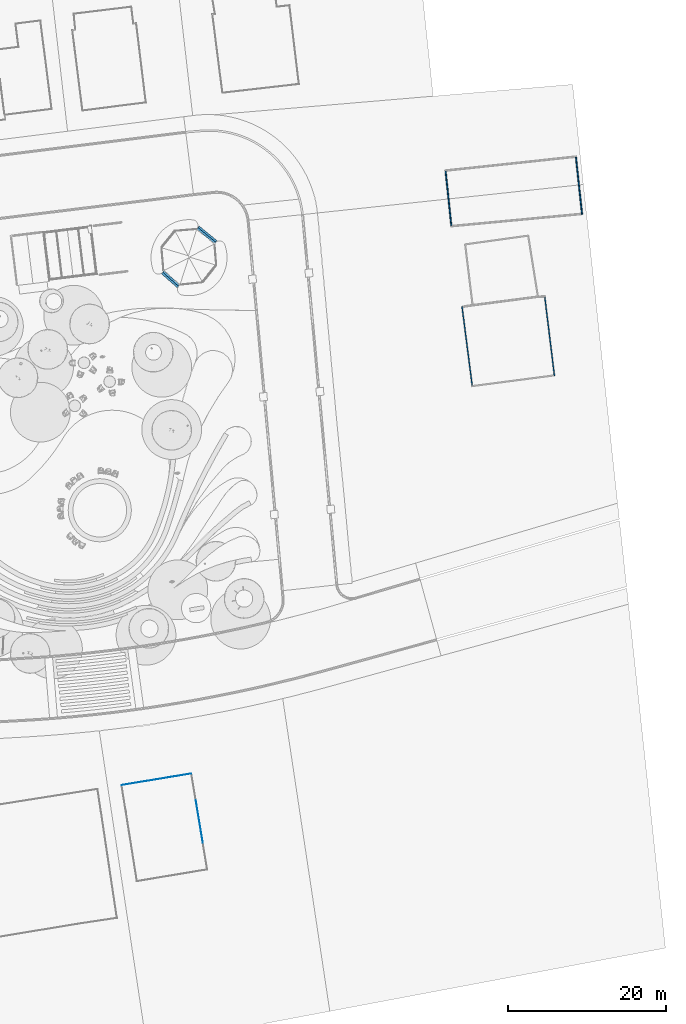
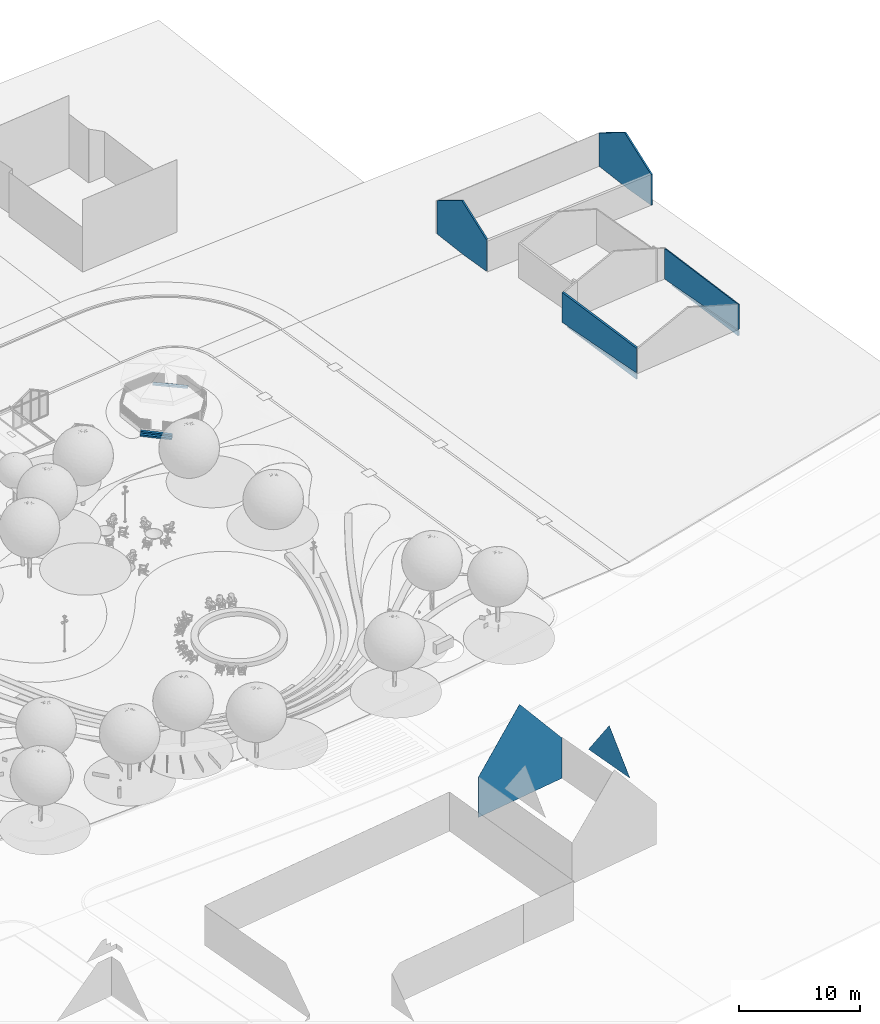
# One storey, part 50 of 75: 6 walls, 2 stair flights, 2 elements without a shape of their own.
"""IFC2X3 building model written with IfcOpenShell, lengths in metres."""

import ifcopenshell
import ifcopenshell.guid

model = None  # the IFC model being written
_history = None  # IfcOwnerHistory: only IFC2X3 demands one
_inside = {}  # id of a spatial element -> (the spatial element, [elements in it])
_under = {}  # id of a project, library or spatial element -> (it, [spatial elements below it])
_declared = {}  # id of a project -> (the project, [libraries it declares])
_typed = {}  # id of a type object -> (the type object, [elements of that type])
_made_of = {}  # id of a material, layer set ... -> (it, [elements and type objects made of it])


def new_model(schema):
    """Start an empty IFC model of exactly this schema.

    Asked for "IFC4X3", IfcOpenShell would pick the latest addendum, in which some entities
    have other attributes; the version numbers below select the first issue.
    IFC2X3 requires an IfcOwnerHistory on every rooted entity: one is made here for all.
    """
    global model, _history
    if schema == "IFC4X3":
        model = ifcopenshell.file(schema_version=(4, 3, 0, 0))
    else:
        model = ifcopenshell.file(schema=schema)
    _inside.clear()
    _under.clear()
    _declared.clear()
    _typed.clear()
    _made_of.clear()
    _history = None
    if model.schema == "IFC2X3":
        org = make("IfcOrganization", Name="unknown")
        user = make(
            "IfcPersonAndOrganization",
            ThePerson=make("IfcPerson", FamilyName="unknown"),
            TheOrganization=org,
        )
        app = make(
            "IfcApplication",
            ApplicationDeveloper=org,
            Version="unknown",
            ApplicationFullName="unknown",
            ApplicationIdentifier="unknown",
        )
        _history = make(
            "IfcOwnerHistory",
            OwningUser=user,
            OwningApplication=app,
            ChangeAction="ADDED",
            CreationDate=0,
        )
    return model


def make(cls, **values):
    """One entity of the class cls with the attributes given. An attribute that is None is left unset."""
    return model.create_entity(
        cls, **{name: value for name, value in values.items() if value is not None}
    )


def entity(cls, *values):
    """Any entity or typed value of the class cls, its attributes in the order of the schema. None: left unset."""
    e = model.create_entity(cls)
    for i, value in enumerate(values):
        if value is not None:
            e[i] = value
    return e


def rooted(cls, **values):
    """An entity with a GlobalId (a new one), such as an element, a storey or a relation."""
    return make(cls, GlobalId=ifcopenshell.guid.new(), OwnerHistory=_history, **values)


def si_unit(unit_type, name, prefix=None):
    """IfcSIUnit, for example si_unit("LENGTHUNIT", "METRE", prefix="MILLI")."""
    return make("IfcSIUnit", UnitType=unit_type, Prefix=prefix, Name=name)


def converted_unit(unit_type, name, factor, base, dimensions=None, offset=None):
    """IfcConversionBasedUnit, such as the inch: factor (a typed value) times the base unit."""
    return make(
        "IfcConversionBasedUnit"
        if offset is None
        else "IfcConversionBasedUnitWithOffset",
        ConversionOffset=offset,
        Dimensions=None
        if dimensions is None
        else entity("IfcDimensionalExponents", *dimensions),
        UnitType=unit_type,
        Name=name,
        ConversionFactor=make(
            "IfcMeasureWithUnit", ValueComponent=factor, UnitComponent=base
        ),
    )


def derived_unit(unit_type, elements):
    """IfcDerivedUnit: a product of units, each with its exponent."""
    return make(
        "IfcDerivedUnit",
        Elements=[
            make("IfcDerivedUnitElement", Unit=unit, Exponent=power)
            for unit, power in elements
        ],
        UnitType=unit_type,
    )


def assignment(units):
    """IfcUnitAssignment: the units of a project."""
    return None if units is None else make("IfcUnitAssignment", Units=units)


def point(xyz):
    """IfcCartesianPoint."""
    return None if xyz is None else make("IfcCartesianPoint", Coordinates=xyz)


def direction(xyz):
    """IfcDirection."""
    return None if xyz is None else make("IfcDirection", DirectionRatios=xyz)


def frame(location, z_axis=None, x_axis=None):
    """IfcAxis2Placement3D, a coordinate frame: its origin and axes. An axis left out is left unset."""
    return make(
        "IfcAxis2Placement3D",
        Location=point(location),
        Axis=direction(z_axis),
        RefDirection=direction(x_axis),
    )


def origin():
    """The frame at (0, 0, 0) with its axes left unset."""
    return frame((0.0, 0.0, 0.0))


def place(relative_to, where):
    """IfcLocalPlacement: puts the frame where relative to a parent placement (None: the world)."""
    return make(
        "IfcLocalPlacement", PlacementRelTo=relative_to, RelativePlacement=where
    )


def context(
    kind, dimensions, precision=None, world=None, true_north=None, identifier=None
):
    """IfcGeometricRepresentationContext, for example the 3D "Model" context."""
    return make(
        "IfcGeometricRepresentationContext",
        ContextIdentifier=identifier,
        ContextType=kind,
        CoordinateSpaceDimension=dimensions,
        Precision=precision,
        WorldCoordinateSystem=world,
        TrueNorth=true_north,
    )


def subcontext(parent, identifier, kind, view, scale=None):
    """IfcGeometricRepresentationSubContext, for example "Body" below "Model"."""
    return make(
        "IfcGeometricRepresentationSubContext",
        ContextIdentifier=identifier,
        ContextType=kind,
        ParentContext=parent,
        TargetScale=scale,
        TargetView=view,
    )


def project(units=None, contexts=None):
    """IfcProject with its units and contexts."""
    return rooted(
        "IfcProject",
        Name="project",
        RepresentationContexts=contexts,
        UnitsInContext=assignment(units),
    )


def spatial(cls, under=None, at=None, **own):
    """A site, building, storey or space (cls), placed at a placement, below another one or the project."""
    s = rooted(cls, ObjectPlacement=at, **own)
    if under is not None:
        _under.setdefault(under.id(), (under, []))[1].append(s)
    return s


def faces_of(points, faces, orient=None, outer=None):
    """IfcFace entities. A face is a list of loops; a loop is a list of indices into points, from 0.

    orient and outer hold one flag for each loop. By default every Orientation is true, the
    first loop of a face is its IfcFaceOuterBound and the others are IfcFaceBound.
    """
    made = []
    for i, loops in enumerate(faces):
        bounds = []
        for j, loop in enumerate(loops):
            is_outer = j == 0 if outer is None else outer[i][j]
            bounds.append(
                make(
                    "IfcFaceOuterBound" if is_outer else "IfcFaceBound",
                    Bound=make("IfcPolyLoop", Polygon=[points[k] for k in loop]),
                    Orientation=True if orient is None else orient[i][j],
                )
            )
        made.append(make("IfcFace", Bounds=bounds))
    return made


def faceted_brep(points, faces, orient=None, outer=None, voids=None):
    """IfcFacetedBrep: a solid bounded by flat faces; with voids (closed shells), ...WithVoids."""
    shared = [point(p) for p in points]
    hull = make("IfcClosedShell", CfsFaces=faces_of(shared, faces, orient, outer))
    if voids is None:
        return make("IfcFacetedBrep", Outer=hull)
    return make(
        "IfcFacetedBrepWithVoids",
        Outer=hull,
        Voids=[
            make(cls, CfsFaces=faces_of(shared, fs, o, b)) for cls, fs, o, b in voids
        ],
    )


def shape(context_of_items, identifier, shape_type, items):
    """IfcShapeRepresentation: the items that make up one representation, for example the "Body"."""
    return make(
        "IfcShapeRepresentation",
        ContextOfItems=context_of_items,
        RepresentationIdentifier=identifier,
        RepresentationType=shape_type,
        Items=items,
    )


def material(Name=None, Category=None):
    """IfcMaterial."""
    return make("IfcMaterial", Name=Name, Category=Category)


def layer(
    of_material, thickness, ventilated=None, Name=None, Category=None, Priority=None
):
    """IfcMaterialLayer: one layer of a wall or slab, of a material (None: an air gap)."""
    return make(
        "IfcMaterialLayer",
        Material=of_material,
        LayerThickness=thickness,
        IsVentilated=ventilated,
        Name=Name,
        Category=Category,
        Priority=Priority,
    )


def layer_set(layers, Name=None):
    """IfcMaterialLayerSet."""
    return make("IfcMaterialLayerSet", MaterialLayers=layers, LayerSetName=Name)


def made_of(thing, what):
    """Note that an element or type object is made of a material, layer set ...; save() writes the relation."""
    if what is not None:
        _made_of.setdefault(what.id(), (what, []))[1].append(thing)
    return thing


def type_object(cls, material=None, **own):
    """A type object (cls), such as IfcWallType, which elements share."""
    return made_of(rooted(cls, **own), material)


def element(
    cls,
    number,
    at=None,
    inside=None,
    cuts=None,
    type_object=None,
    material=None,
    context=None,
    identifier="Body",
    shape_type=None,
    held_by="IfcProductDefinitionShape",
    body=None,
    shapes=None,
    **own,
):
    """One element of the class cls, such as IfcWall. Its Tag is "e" and its number.

    at: its placement. inside: the storey or other place that contains it. cuts: it is an
    opening in that element (IfcRelVoidsElement). A single representation is given by context,
    identifier, shape_type and body (its items); several are given by shapes. held_by: the class
    of the entity that holds the representations. save() writes the other relations.
    """
    e = rooted(cls, Tag="e%d" % number, ObjectPlacement=at, **own)
    if body is not None:
        shapes = [shape(context, identifier, shape_type, body)]
    if shapes is not None:
        e.Representation = make(held_by, Representations=shapes)
    if inside is not None:
        _inside.setdefault(inside.id(), (inside, []))[1].append(e)
    if cuts is not None:
        rooted(
            "IfcRelVoidsElement", RelatingBuildingElement=cuts, RelatedOpeningElement=e
        )
    if type_object is not None:
        _typed.setdefault(type_object.id(), (type_object, []))[1].append(e)
    return made_of(e, material)


def aggregate(whole, parts):
    """IfcRelAggregates: a whole, such as a stair, and the parts it consists of."""
    return rooted("IfcRelAggregates", RelatingObject=whole, RelatedObjects=parts)


def save(model, path):
    """Write the relations noted so far, then the file.

    IfcRelAggregates (storeys below a building ...), IfcRelContainedInSpatialStructure (elements
    in a storey), IfcRelDefinesByType, IfcRelAssociatesMaterial and IfcRelDeclares: one each for
    every whole, place, type object, material and project.
    """
    for whole, parts in _under.values():
        aggregate(whole, parts)
    for where, things in _inside.values():
        rooted(
            "IfcRelContainedInSpatialStructure",
            RelatedElements=things,
            RelatingStructure=where,
        )
    for kind, things in _typed.values():
        rooted("IfcRelDefinesByType", RelatedObjects=things, RelatingType=kind)
    for what, things in _made_of.values():
        rooted("IfcRelAssociatesMaterial", RelatedObjects=things, RelatingMaterial=what)
    for by, libraries in _declared.values():
        rooted("IfcRelDeclares", RelatingContext=by, RelatedDefinitions=libraries)
    model.write(path)


model = new_model("IFC2X3")

# Units and contexts
model_context = context("Model", 3, precision=1e-05, world=origin(), true_north=direction((6.123031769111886e-17, 1.0)))
body_context = subcontext(model_context, "Body", "Model", "MODEL_VIEW")
ifc_project = project(units=[si_unit("LENGTHUNIT", "METRE"), si_unit("AREAUNIT", "SQUARE_METRE"), si_unit("VOLUMEUNIT", "CUBIC_METRE"), converted_unit("PLANEANGLEUNIT", "DEGREE", entity("IfcRatioMeasure", 0.017453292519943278), si_unit("PLANEANGLEUNIT", "RADIAN"), dimensions=[0, 0, 0, 0, 0, 0, 0]), si_unit("MASSUNIT", "GRAM", prefix="KILO"), derived_unit("MASSDENSITYUNIT", [(si_unit("MASSUNIT", "GRAM", prefix="KILO"), 1), (si_unit("LENGTHUNIT", "METRE"), -3)]), derived_unit("IONCONCENTRATIONUNIT", [(si_unit("MASSUNIT", "GRAM", prefix="KILO"), 1), (si_unit("LENGTHUNIT", "METRE"), -3)]), derived_unit("MOMENTOFINERTIAUNIT", [(si_unit("LENGTHUNIT", "METRE"), 4)]), si_unit("TIMEUNIT", "SECOND"), si_unit("FREQUENCYUNIT", "HERTZ"), si_unit("THERMODYNAMICTEMPERATUREUNIT", "DEGREE_CELSIUS"), derived_unit("THERMALTRANSMITTANCEUNIT", [(si_unit("MASSUNIT", "GRAM", prefix="KILO"), 1), (si_unit("THERMODYNAMICTEMPERATUREUNIT", "KELVIN"), -1), (si_unit("TIMEUNIT", "SECOND"), -3)]), derived_unit("THERMALCONDUCTANCEUNIT", [(si_unit("MASSUNIT", "GRAM", prefix="KILO"), 1), (si_unit("THERMODYNAMICTEMPERATUREUNIT", "KELVIN"), -1), (si_unit("TIMEUNIT", "SECOND"), -3), (si_unit("LENGTHUNIT", "METRE"), 1)]), derived_unit("VOLUMETRICFLOWRATEUNIT", [(si_unit("LENGTHUNIT", "METRE"), 3), (si_unit("TIMEUNIT", "SECOND"), -1)]), derived_unit("MASSFLOWRATEUNIT", [(si_unit("MASSUNIT", "GRAM", prefix="KILO"), 1), (si_unit("TIMEUNIT", "SECOND"), -1)]), derived_unit("ROTATIONALFREQUENCYUNIT", [(si_unit("TIMEUNIT", "SECOND"), -1)]), si_unit("ELECTRICCURRENTUNIT", "AMPERE"), si_unit("ELECTRICVOLTAGEUNIT", "VOLT"), si_unit("POWERUNIT", "WATT"), si_unit("FORCEUNIT", "NEWTON", prefix="KILO"), si_unit("ILLUMINANCEUNIT", "LUX"), si_unit("LUMINOUSFLUXUNIT", "LUMEN"), si_unit("LUMINOUSINTENSITYUNIT", "CANDELA"), derived_unit("USERDEFINED", [(si_unit("MASSUNIT", "GRAM", prefix="KILO"), -1), (si_unit("LENGTHUNIT", "METRE"), -2), (si_unit("TIMEUNIT", "SECOND"), 3), (si_unit("LUMINOUSFLUXUNIT", "LUMEN"), 1)]), derived_unit("USERDEFINED", [(si_unit("MASSUNIT", "GRAM", prefix="KILO"), 1), (si_unit("TIMEUNIT", "SECOND"), -3), (si_unit("LENGTHUNIT", "METRE"), 3), (si_unit("ELECTRICCURRENTUNIT", "AMPERE"), -2)]), derived_unit("SOUNDPOWERUNIT", [(si_unit("MASSUNIT", "GRAM", prefix="KILO"), 1), (si_unit("TIMEUNIT", "SECOND"), -3), (si_unit("LENGTHUNIT", "METRE"), 2)]), derived_unit("SOUNDPRESSUREUNIT", [(si_unit("MASSUNIT", "GRAM", prefix="KILO"), 1), (si_unit("LENGTHUNIT", "METRE"), -1), (si_unit("TIMEUNIT", "SECOND"), -2)]), derived_unit("LINEARVELOCITYUNIT", [(si_unit("LENGTHUNIT", "METRE"), 1), (si_unit("TIMEUNIT", "SECOND"), -1)]), si_unit("PRESSUREUNIT", "PASCAL"), derived_unit("USERDEFINED", [(si_unit("MASSUNIT", "GRAM", prefix="KILO"), 1), (si_unit("LENGTHUNIT", "METRE"), -2), (si_unit("TIMEUNIT", "SECOND"), -2)]), derived_unit("LINEARFORCEUNIT", [(si_unit("MASSUNIT", "GRAM", prefix="KILO"), 1), (si_unit("TIMEUNIT", "SECOND"), -2)]), derived_unit("PLANARFORCEUNIT", [(si_unit("MASSUNIT", "GRAM", prefix="KILO"), 1), (si_unit("LENGTHUNIT", "METRE"), -1), (si_unit("TIMEUNIT", "SECOND"), -2)]), derived_unit("SPECIFICHEATCAPACITYUNIT", [(si_unit("THERMODYNAMICTEMPERATUREUNIT", "KELVIN"), -1), (si_unit("LENGTHUNIT", "METRE"), 2), (si_unit("TIMEUNIT", "SECOND"), -2)]), derived_unit("HEATINGVALUEUNIT", [(si_unit("LENGTHUNIT", "METRE"), 2), (si_unit("TIMEUNIT", "SECOND"), -2)]), derived_unit("VAPORPERMEABILITYUNIT", [(si_unit("LENGTHUNIT", "METRE"), -1), (si_unit("TIMEUNIT", "SECOND"), 1)]), derived_unit("DYNAMICVISCOSITYUNIT", [(si_unit("MASSUNIT", "GRAM", prefix="KILO"), 1), (si_unit("TIMEUNIT", "SECOND"), -1), (si_unit("LENGTHUNIT", "METRE"), -1)]), derived_unit("THERMALEXPANSIONCOEFFICIENTUNIT", [(si_unit("THERMODYNAMICTEMPERATUREUNIT", "KELVIN"), -1)]), derived_unit("MODULUSOFELASTICITYUNIT", [(si_unit("MASSUNIT", "GRAM", prefix="KILO"), 1), (si_unit("LENGTHUNIT", "METRE"), -1), (si_unit("TIMEUNIT", "SECOND"), -2)]), derived_unit("ISOTHERMALMOISTURECAPACITYUNIT", [(si_unit("LENGTHUNIT", "METRE"), 3), (si_unit("MASSUNIT", "GRAM", prefix="KILO"), -1)]), derived_unit("MOISTUREDIFFUSIVITYUNIT", [(si_unit("TIMEUNIT", "SECOND"), -1), (si_unit("LENGTHUNIT", "METRE"), 2)])], contexts=[model_context])

# Site, building, storey
site_placement = place(None, origin())
site = spatial("IfcSite", under=ifc_project, at=site_placement, Name="Default", CompositionType="ELEMENT")
building_placement = place(site_placement, origin())
building = spatial("IfcBuilding", under=site, at=building_placement, Name="Projeto", CompositionType="ELEMENT")
storey_placement = place(building_placement, origin())
storey = spatial("IfcBuildingStorey", under=building, at=storey_placement, Name="Nível 1", CompositionType="ELEMENT", Elevation=0.0)

# Walls
ifc_material_1 = material(Name="Metal")
ifc_layer_1 = layer(ifc_material_1, 0.01)
ifc_layer_set_1 = layer_set([ifc_layer_1], Name="Parede básica:JA_Aluminio")
wall_type_1 = type_object("IfcWallType", Name="Parede básica:JA_Aluminio", PredefinedType="STANDARD", material=ifc_layer_set_1)
wall_1_placement = place(storey_placement, frame((20.369379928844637, -33.950649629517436, -0.1), z_axis=(0.0, 0.0, 1.0), x_axis=(-0.9867873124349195, -0.16202098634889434, 0.0)))
element("IfcWall", 1, at=wall_1_placement, inside=storey, type_object=wall_type_1, Name="Parede básica:JA_Aluminio", ObjectType="Parede básica:JA_Aluminio", context=body_context, shape_type="Brep", body=[
    faceted_brep([(1.6000740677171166e-05, -0.005000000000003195, 0.0), (8.977939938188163, -0.005000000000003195, 0.0), (8.977939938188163, -0.005000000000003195, 4.090938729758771), (4.556507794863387, -0.005000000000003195, 9.526631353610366), (1.6000740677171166e-05, -0.005000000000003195, 4.096422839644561), (0.0, 0.004999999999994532, 0.0), (0.0, 0.004999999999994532, 4.096403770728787), (4.556507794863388, 0.004999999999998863, 9.526631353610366), (8.97798816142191, 0.004999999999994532, 4.09087944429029), (8.97798816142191, 0.004999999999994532, 0.0), (8.967988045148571, 0.004999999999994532, 0.0), (0.010000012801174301, 0.004999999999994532, 0.0)], [[[0, 1, 2, 3, 4]], [[5, 6, 7, 8, 9, 10, 11]], [[1, 0, 5, 11, 10, 9]], [[0, 4, 6, 5]], [[2, 1, 9, 8]], [[3, 2, 8, 7]], [[4, 3, 7, 6]]]),
])
wall_2_placement = place(storey_placement, frame((21.82191197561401, -42.740211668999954, 4.7021255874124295), z_axis=(0.0, 0.0, 1.0), x_axis=(-0.16359970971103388, 0.9865268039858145, 0.0)))
element("IfcWall", 2, at=wall_2_placement, inside=storey, type_object=wall_type_1, Name="Parede básica:JA_Aluminio", ObjectType="Parede básica:JA_Aluminio", context=body_context, shape_type="Brep", body=[
    faceted_brep([(5.452318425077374, -0.004999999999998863, 0.0), (2.726173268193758, -0.0049999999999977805, 3.8933588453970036), (0.0, -0.005000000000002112, 0.0), (0.008376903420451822, 0.005000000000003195, 0.011917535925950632), (2.7261893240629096, 0.005000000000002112, 3.893335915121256), (5.443973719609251, 0.004999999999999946, 0.0119175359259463)], [[[0, 1, 2]], [[3, 4, 5]], [[0, 2, 3, 5]], [[1, 4, 3, 2]], [[4, 1, 0, 5]]]),
])
ifc_material_2 = material(Name="<Unnamed>")
ifc_layer_2 = layer(ifc_material_2, 0.03)
ifc_layer_3 = layer(ifc_material_2, 0.09)
ifc_layer_4 = layer(ifc_material_2, 0.03)
ifc_layer_set_2 = layer_set([ifc_layer_2, ifc_layer_3, ifc_layer_4], Name="Parede básica:15cm")
wall_type_2 = type_object("IfcWallType", Name="Parede básica:15cm", PredefinedType="STANDARD", material=ifc_layer_set_2)
wall_3_placement = place(storey_placement, frame((55.985357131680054, 15.287363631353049, -2.0), z_axis=(0.0, 0.0, 1.0), x_axis=(-0.12765451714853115, 0.9918186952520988, 0.0)))
element("IfcWall", 3, at=wall_3_placement, inside=storey, type_object=wall_type_2, Name="Parede básica:15cm", ObjectType="Parede básica:15cm", context=body_context, shape_type="Brep", body=[
    faceted_brep([(0.00028453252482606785, -0.07500000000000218, 0.0), (9.454475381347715, -0.07499999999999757, 0.0), (0.00028453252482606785, -0.07500000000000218, 0.5006629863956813), (0.0, 0.07499999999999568, 0.0), (0.0, 0.07499999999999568, 0.5009535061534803), (9.459676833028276, 0.07499999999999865, 0.0)], [[[0, 1, 2]], [[3, 4, 5]], [[0, 3, 5, 1]], [[3, 0, 2, 4]], [[2, 1, 5, 4]]]),
    faceted_brep([(10.135425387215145, 0.07499999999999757, 3.1546873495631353), (10.139304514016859, -0.07500000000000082, 3.2092828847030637), (10.139304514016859, -0.07500000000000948, 0.11394412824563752), (10.13542538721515, 0.07499999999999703, 0.11442500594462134), (0.00028453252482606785, -0.07500000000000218, 3.2092828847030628), (9.989254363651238, -0.07499999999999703, 3.209282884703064), (0.0, 0.07499999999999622, 3.1546873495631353), (9.989254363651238, -0.07499999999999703, 0.12189029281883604), (0.00028453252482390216, -0.0750000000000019, 0.6508734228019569), (0.0, 0.07499999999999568, 0.6511639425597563)], [[[0, 1, 2, 3]], [[4, 5, 1, 0, 6]], [[2, 7, 8, 9, 3]], [[4, 6, 9, 8]], [[6, 0, 3, 9]], [[1, 5, 4, 8, 7, 2]]]),
])
wall_4_placement = place(storey_placement, frame((65.19474930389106, 26.52323188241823, -2.0), z_axis=(0.0, 0.0, 1.0), x_axis=(0.12170809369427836, -0.9925659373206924, 0.0)))
element("IfcWall", 4, at=wall_4_placement, inside=storey, type_object=wall_type_2, Name="Parede básica:15cm", ObjectType="Parede básica:15cm", context=body_context, shape_type="Brep", body=[
    faceted_brep([(0.8754021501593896, -0.07499999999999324, 0.0), (9.94901800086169, -0.07499999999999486, 0.0), (10.09902266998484, -0.07499999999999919, 0.0), (10.099022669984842, -0.07499999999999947, 0.48854547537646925), (9.949018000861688, -0.07499999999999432, 0.4806002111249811), (10.097839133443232, 0.07499999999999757, 0.4882549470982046), (10.097839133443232, 0.07499999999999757, 0.0), (0.8797037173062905, 0.0750000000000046, 0.0)], [[[0, 1, 2, 3, 4]], [[5, 6, 7]], [[6, 2, 1, 0, 7]], [[2, 6, 5, 3]], [[0, 4, 3, 5, 7]]]),
    faceted_brep([(0.0, -0.07499999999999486, 3.2092828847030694), (0.010831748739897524, 0.07499999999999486, 3.15468734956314), (0.010831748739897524, 0.07500000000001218, 0.10418908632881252), (0.0, -0.07499999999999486, 0.10384320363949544), (9.94901800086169, -0.07499999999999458, 3.2092828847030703), (10.09902266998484, -0.07499999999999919, 3.2092828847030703), (10.097839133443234, 0.07499999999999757, 3.15468734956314), (10.099022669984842, -0.07499999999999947, 0.6387559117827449), (9.94901800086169, -0.07499999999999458, 0.630810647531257), (10.097839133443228, 0.07500000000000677, 0.6384653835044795)], [[[0, 1, 2, 3]], [[0, 4, 5, 6, 1]], [[7, 8, 3, 2, 9]], [[6, 5, 7, 9]], [[1, 6, 9, 2]], [[5, 4, 0, 3, 8, 7]]]),
])
wall_5_placement = place(storey_placement, frame((69.14874332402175, 44.252757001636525, -2.6000000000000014), z_axis=(0.0, 0.0, 1.0), x_axis=(0.10681665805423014, -0.9942787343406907, 0.0)))
element("IfcWall", 5, at=wall_5_placement, inside=storey, type_object=wall_type_2, Name="Parede básica:15cm", ObjectType="Parede básica:15cm", context=body_context, shape_type="Brep", body=[
    faceted_brep([(0.0, -0.07500000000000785, 3.375277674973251), (0.0, -0.07500000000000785, 0.0), (4.002380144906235, -0.07500000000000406, 0.0), (7.304927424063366, -0.07500000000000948, 0.1749808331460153), (7.304927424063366, -0.07500000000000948, 3.288675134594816), (7.1549137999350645, -0.07500000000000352, 3.3752776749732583), (3.577294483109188, -0.0750000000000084, 5.440629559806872), (3.232577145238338e-05, 0.07499999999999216, 0.0), (3.232577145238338e-05, 0.07499999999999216, 3.3752776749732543), (3.5783214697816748, 0.07499999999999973, 5.441203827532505), (7.306949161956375, 0.07499999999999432, 3.2886751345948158), (7.306949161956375, 0.07499999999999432, 0.17497922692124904), (4.004432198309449, 0.07500000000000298, 0.0)], [[[0, 1, 2, 3, 4, 5, 6]], [[7, 8, 9, 10, 11, 12]], [[1, 7, 12, 2]], [[1, 0, 8, 7]], [[10, 4, 3, 11]], [[8, 0, 6, 9]], [[4, 10, 9, 6, 5]], [[3, 2, 12, 11]]]),
])
wall_6_placement = place(storey_placement, frame((53.33616903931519, 35.58175183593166, -2.6000000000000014), z_axis=(0.0, 0.0, 1.0), x_axis=(-0.10422256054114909, 0.9945539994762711, 0.0)))
element("IfcWall", 6, at=wall_6_placement, inside=storey, type_object=wall_type_2, Name="Parede básica:15cm", ObjectType="Parede básica:15cm", context=body_context, shape_type="Brep", body=[
    faceted_brep([(6.9361205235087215, -0.07500000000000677, 0.0), (6.936120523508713, -0.07500000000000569, 3.3752776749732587), (3.4681577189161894, -0.07500000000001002, 5.377501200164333), (0.0, -0.07500000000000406, 3.3752776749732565), (0.0, -0.07500000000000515, 0.16720923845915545), (3.1557661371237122, -0.07500000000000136, 0.0), (6.935761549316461, 0.07500000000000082, 3.3752776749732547), (6.935761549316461, 0.07500000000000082, 0.0), (3.1574268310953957, 0.07499999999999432, 0.0), (0.001630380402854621, 0.0750000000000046, 0.16721084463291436), (0.001630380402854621, 0.0750000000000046, 3.3752776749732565), (3.468793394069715, 0.07499999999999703, 5.376926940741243)], [[[0, 1, 2, 3, 4, 5]], [[6, 7, 8, 9, 10, 11]], [[7, 0, 5, 8]], [[1, 0, 7, 6]], [[3, 10, 9, 4]], [[10, 3, 2, 11]], [[1, 6, 11, 2]], [[5, 4, 9, 8]]]),
])

# Stair, stair flight
stair_1_placement = place(storey_placement, origin())
stair_1 = element("IfcStair", 7, at=stair_1_placement, inside=storey, Name="Escada moldada no local:Escada", ObjectType="Escada moldada no local:Escada monolítica 2", ShapeType="STRAIGHT_RUN_STAIR")
ifc_material_3 = material(Name="Concreto, Moldado no local")
stair_flight_type = type_object("IfcStairFlightType", Name="Lance monolítico:Profundidade de 150 mm", PredefinedType="STRAIGHT")
stair_flight_1_placement = place(stair_1_placement, frame((16.556953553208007, 27.691400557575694, 0.0)))
stair_flight_1 = element("IfcStairFlight", 8, at=stair_flight_1_placement, type_object=stair_flight_type, material=ifc_material_3, Name="Escada moldada no local:Escada:1413330 Run 1", ObjectType="Lance monolítico:Profundidade de 150 mm", NumberOfRiser=3, NumberOfTreads=2, RiserHeight=0.5468066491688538, TreadLength=0.8202099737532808, context=body_context, shape_type="Brep", body=[
    faceted_brep([(0.16573309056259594, 1.9610222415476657, -2.4333333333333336), (0.0, 1.7738524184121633, -2.4333333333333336), (2.003291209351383, 0.0, -2.4333333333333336), (2.1690242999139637, 0.18716982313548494, -2.4333333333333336), (0.16573309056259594, 1.9610222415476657, -2.6), (0.0, 1.7738524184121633, -2.6), (2.003291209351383, 0.0, -2.6), (2.169024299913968, 0.18716982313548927, -2.6), (0.33146618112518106, 2.1481920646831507, -2.266666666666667), (0.16573309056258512, 1.9610222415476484, -2.266666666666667), (2.169024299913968, 0.18716982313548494, -2.266666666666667), (2.3347573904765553, 0.3743396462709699, -2.266666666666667), (0.3314661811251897, 2.148192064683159, -2.4469442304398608), (0.17926774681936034, 1.9763075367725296, -2.6), (2.18255895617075, 0.20245511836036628, -2.599999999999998), (2.3347573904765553, 0.3743396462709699, -2.446944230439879)], [[[0, 1, 2, 3]], [[1, 0, 4, 5]], [[2, 1, 5, 6]], [[3, 2, 6, 7]], [[8, 9, 10, 11]], [[4, 0, 9, 8, 12, 13]], [[0, 3, 10, 9]], [[3, 7, 14, 15, 11, 10]], [[8, 11, 15, 12]], [[5, 4, 13, 14, 7, 6]], [[14, 13, 12, 15]]]),
])
aggregate(stair_1, [stair_flight_1])

stair_2_placement = place(storey_placement, origin())
stair_2 = element("IfcStair", 9, at=stair_2_placement, inside=storey, Name="Escada moldada no local:Escada", ObjectType="Escada moldada no local:Escada monolítica 2", ShapeType="STRAIGHT_RUN_STAIR")
stair_flight_2_placement = place(stair_2_placement, frame((21.037426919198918, 33.27690907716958, 0.0)))
stair_flight_2 = element("IfcStairFlight", 10, at=stair_flight_2_placement, type_object=stair_flight_type, material=ifc_material_3, Name="Escada moldada no local:Escada:1416761 Run 1", ObjectType="Lance monolítico:Profundidade de 150 mm", NumberOfRiser=3, NumberOfTreads=2, RiserHeight=0.5468066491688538, TreadLength=0.8202099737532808, context=body_context, shape_type="Brep", body=[
    faceted_brep([(2.4234671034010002, 0.19369714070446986, -2.4333333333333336), (2.581522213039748, 0.3873942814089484, -2.4333333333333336), (0.31611021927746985, 2.23594991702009, -2.4333333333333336), (0.1580551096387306, 2.0422527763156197, -2.4333333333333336), (2.4234671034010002, 0.19369714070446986, -2.6), (2.581522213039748, 0.3873942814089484, -2.6), (0.31611021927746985, 2.23594991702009, -2.6), (0.15805510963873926, 2.042252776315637, -2.6), (2.2654119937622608, 0.0, -2.266666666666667), (2.4234671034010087, 0.19369714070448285, -2.266666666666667), (0.1580551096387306, 2.042252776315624, -2.266666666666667), (0.0, 1.8485556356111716, -2.266666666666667), (2.2654119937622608, 0.0, -2.4469442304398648), (2.41055947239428, 0.17787878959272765, -2.6), (0.14514747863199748, 2.026434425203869, -2.599999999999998), (0.0, 1.8485556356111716, -2.446944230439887)], [[[0, 1, 2, 3]], [[1, 0, 4, 5]], [[2, 1, 5, 6]], [[3, 2, 6, 7]], [[8, 9, 10, 11]], [[4, 0, 9, 8, 12, 13]], [[0, 3, 10, 9]], [[3, 7, 14, 15, 11, 10]], [[8, 11, 15, 12]], [[5, 4, 13, 14, 7, 6]], [[14, 13, 12, 15]]]),
])
aggregate(stair_2, [stair_flight_2])

save(model, "model.ifc")
